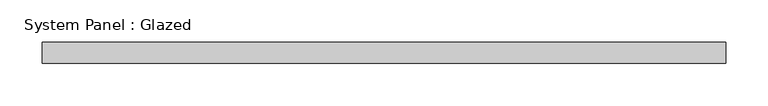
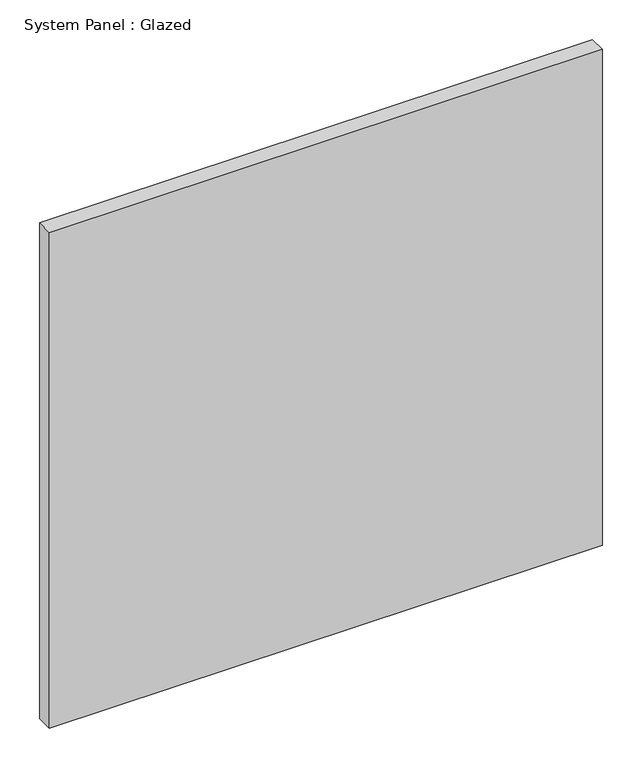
"""IFC4 building model written with IfcOpenShell, lengths in millimetres: plate geometry, System Panel : Glazed."""

from ifc_helpers import new_model, si_unit, origin, origin_with_axes, place, context, project, spatial, polyline, outline, extrude, source, transform, mapped, element, save


def system_panel_glazed_d75f38c2(model_context):
    return source(origin(), model_context, "Body", "SweptSolid", [
        extrude(outline(polyline([(403.6974994, 24.5), (-403.6974994, 24.5), (-403.6974994, 49.5), (403.6974994, 49.5), (403.6974994, 24.5)])), origin_with_axes(), (0.0, 0.0, 1.0), 765.0),
    ])


if __name__ == "__main__":
    model = new_model("IFC4")
    model_context = context("Model", 3, world=origin())
    ifc_project = project(units=[si_unit("LENGTHUNIT", "METRE", prefix="MILLI")], contexts=[model_context])
    site = spatial("IfcSite", under=ifc_project)
    building = spatial("IfcBuilding", under=site)
    placement = place(None, origin())
    system_panel_glazed_shape = system_panel_glazed_d75f38c2(model_context)
    element("IfcPlate", 1, ObjectType="System Panel : Glazed", at=placement, inside=building, context=model_context, shape_type="MappedRepresentation", body=[
        mapped(system_panel_glazed_shape, transform((0.0, 0.0, 0.0), x_axis=(1.0, 0.0, 0.0), y_axis=(0.0, 1.0, 0.0), z_axis=(0.0, 0.0, 1.0))),
    ])
    save(model, "model.ifc")
